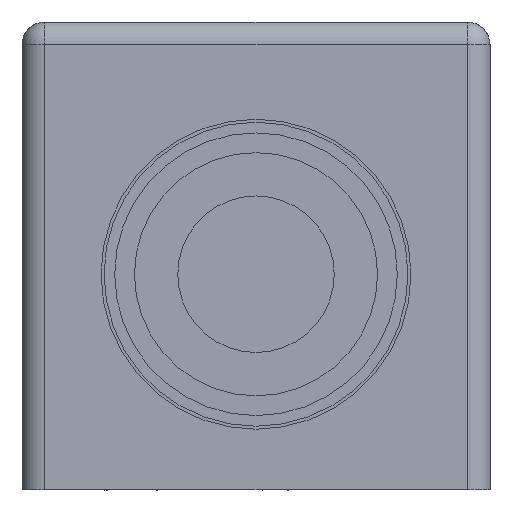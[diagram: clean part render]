
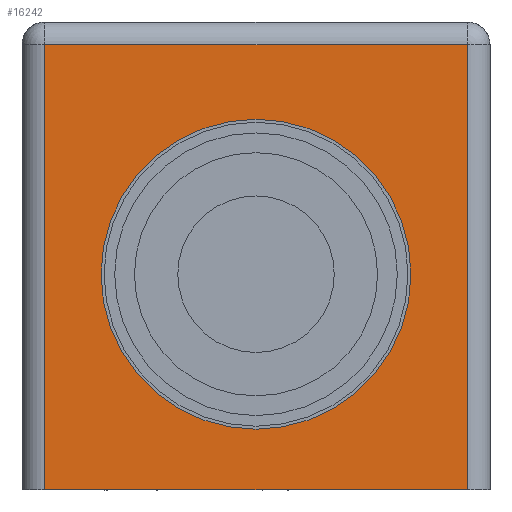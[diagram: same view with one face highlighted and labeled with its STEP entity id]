
A CAD part, front view. The second image highlights one B-rep face of the part: STEP entity #16242.
In plain terms, the highlighted planar face has unit normal (0, -1, 0).
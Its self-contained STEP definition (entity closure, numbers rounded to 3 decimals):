
#7388 = CARTESIAN_POINT ( 'NONE',  ( 0., -51.5, 12.2 ) ) ;
#7439 = CARTESIAN_POINT ( 'NONE',  ( 0., -51.5, -8.2 ) ) ;
#7474 = DIRECTION ( 'NONE',  ( 0., 0., -1. ) ) ;
#7475 = DIRECTION ( 'NONE',  ( 0., -1., 0. ) ) ;
#7476 = CARTESIAN_POINT ( 'NONE',  ( 0., -51.5, 2. ) ) ;
#7477 = AXIS2_PLACEMENT_3D ( 'NONE', #7476, #7475, #7474 ) ;
#7478 = CIRCLE ( 'NONE', #7477, 10.2 ) ;
#8041 = CARTESIAN_POINT ( 'NONE',  ( -13.9, -51.5, -12.2 ) ) ;
#8042 = DIRECTION ( 'NONE',  ( 1., 0., 0. ) ) ;
#8043 = VECTOR ( 'NONE', #8042, 1000. ) ;
#8044 = CARTESIAN_POINT ( 'NONE',  ( 0., -51.5, -12.2 ) ) ;
#8045 = LINE ( 'NONE', #8044, #8043 ) ;
#8046 = CARTESIAN_POINT ( 'NONE',  ( 13.9, -51.5, -12.2 ) ) ;
#9173 = DIRECTION ( 'NONE',  ( 0., 0., -1. ) ) ;
#9174 = DIRECTION ( 'NONE',  ( 0., -1., 0. ) ) ;
#9175 = CARTESIAN_POINT ( 'NONE',  ( 0., -51.5, 2. ) ) ;
#9176 = AXIS2_PLACEMENT_3D ( 'NONE', #9175, #9174, #9173 ) ;
#9177 = DIRECTION ( 'NONE',  ( 0., 0., 1. ) ) ;
#9178 = DIRECTION ( 'NONE',  ( 0., 1., 0. ) ) ;
#9179 = CARTESIAN_POINT ( 'NONE',  ( 0., -51.5, 18.6 ) ) ;
#9180 = CIRCLE ( 'NONE', #9176, 10.2 ) ;
#9181 = AXIS2_PLACEMENT_3D ( 'NONE', #9179, #9178, #9177 ) ;
#9182 = PLANE ( 'NONE',  #9181 ) ;
#9183 = FACE_OUTER_BOUND ( 'NONE', #16247, .T. ) ;
#9184 = FACE_BOUND ( 'NONE', #16243, .T. ) ;
#9269 = LINE ( 'NONE', #9331, #9330 ) ;
#9270 = CARTESIAN_POINT ( 'NONE',  ( 13.9, -51.5, 17.1 ) ) ;
#9271 = DIRECTION ( 'NONE',  ( 0., 0., -1. ) ) ;
#9272 = VECTOR ( 'NONE', #9271, 1000. ) ;
#9273 = CARTESIAN_POINT ( 'NONE',  ( 13.9, -51.5, 18.6 ) ) ;
#9274 = LINE ( 'NONE', #9273, #9272 ) ;
#9324 = DIRECTION ( 'NONE',  ( 0., 0., -1. ) ) ;
#9325 = VECTOR ( 'NONE', #9324, 1000. ) ;
#9326 = CARTESIAN_POINT ( 'NONE',  ( -13.9, -51.5, 18.6 ) ) ;
#9327 = LINE ( 'NONE', #9326, #9325 ) ;
#9328 = CARTESIAN_POINT ( 'NONE',  ( -13.9, -51.5, 17.1 ) ) ;
#9329 = DIRECTION ( 'NONE',  ( -1., 0., 0. ) ) ;
#9330 = VECTOR ( 'NONE', #9329, 1000. ) ;
#9331 = CARTESIAN_POINT ( 'NONE',  ( 0., -51.5, 17.1 ) ) ;
#15533 = VERTEX_POINT ( 'NONE', #7388 ) ;
#15562 = VERTEX_POINT ( 'NONE', #7439 ) ;
#15572 = EDGE_CURVE ( 'NONE', #15533, #15562, #7478, .T. ) ;
#15839 = VERTEX_POINT ( 'NONE', #8046 ) ;
#15841 = EDGE_CURVE ( 'NONE', #15842, #15839, #8045, .T. ) ;
#15842 = VERTEX_POINT ( 'NONE', #8041 ) ;
#16242 = ADVANCED_FACE ( 'NONE', ( #9184, #9183 ), #9182, .F. ) ;
#16243 = EDGE_LOOP ( 'NONE', ( #16244, #16246 ) ) ;
#16244 = ORIENTED_EDGE ( 'NONE', *, *, #16245, .F. ) ;
#16245 = EDGE_CURVE ( 'NONE', #15562, #15533, #9180, .T. ) ;
#16246 = ORIENTED_EDGE ( 'NONE', *, *, #15572, .F. ) ;
#16247 = EDGE_LOOP ( 'NONE', ( #16306, #16307, #16310, #16313 ) ) ;
#16306 = ORIENTED_EDGE ( 'NONE', *, *, #15841, .T. ) ;
#16307 = ORIENTED_EDGE ( 'NONE', *, *, #16308, .F. ) ;
#16308 = EDGE_CURVE ( 'NONE', #16309, #15839, #9274, .T. ) ;
#16309 = VERTEX_POINT ( 'NONE', #9270 ) ;
#16310 = ORIENTED_EDGE ( 'NONE', *, *, #16311, .T. ) ;
#16311 = EDGE_CURVE ( 'NONE', #16309, #16312, #9269, .T. ) ;
#16312 = VERTEX_POINT ( 'NONE', #9328 ) ;
#16313 = ORIENTED_EDGE ( 'NONE', *, *, #16314, .T. ) ;
#16314 = EDGE_CURVE ( 'NONE', #16312, #15842, #9327, .T. ) ;
